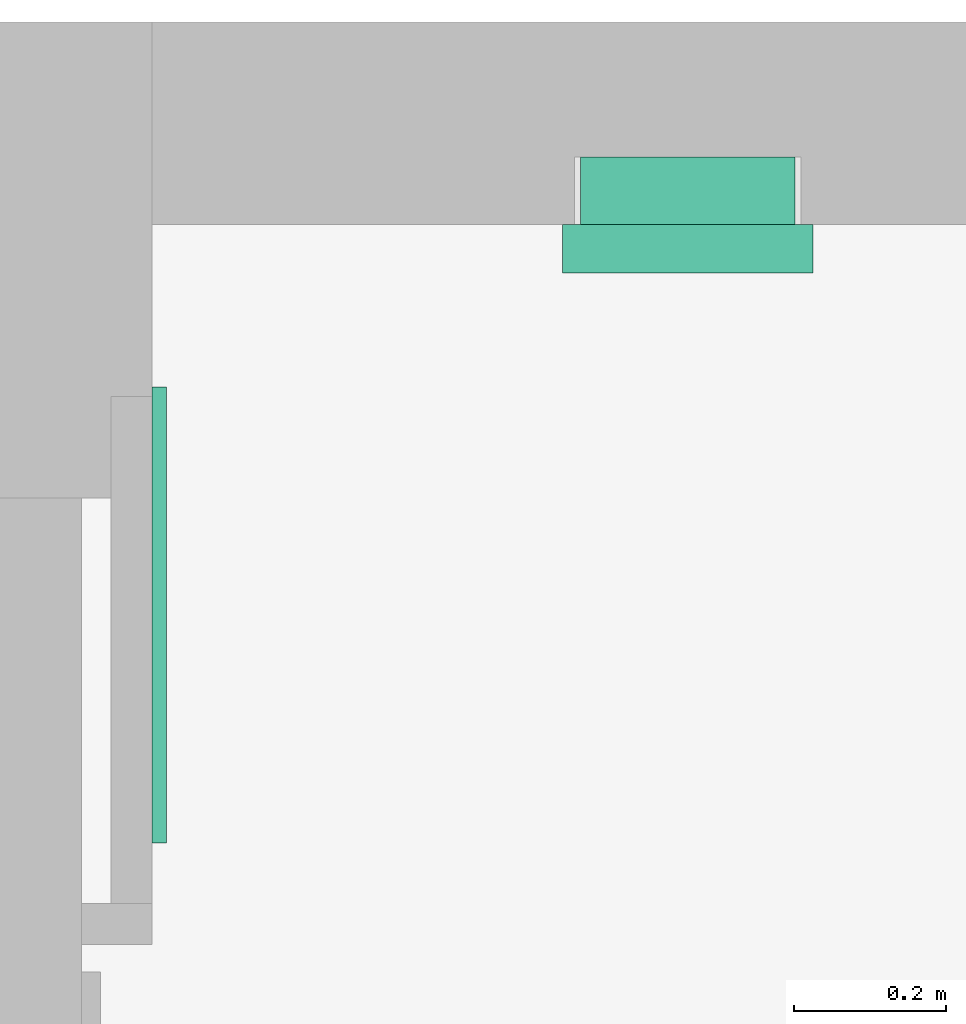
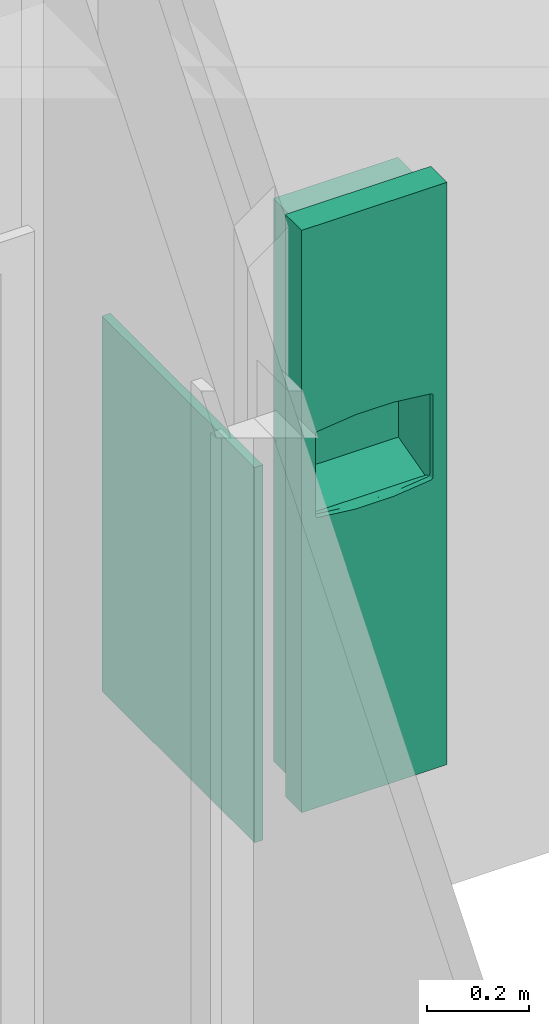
# One storey, part 66 of 87: 2 flow terminals.
"""IFC2X3 building model written with IfcOpenShell, lengths in metres."""

from ifc_helpers import new_model, entity, si_unit, converted_unit, frame, origin, origin_2d_with_axis, place, context, project, spatial, rectangle, extrude, face_set, surface_model, source, transform, mapped, type_object, type_shapes, element, save


model = new_model("IFC2X3")

# Units and contexts
model_context = context("Model", 3, precision=1e-09, world=origin())
plan_context = context("Plan", 3, precision=1e-09, world=origin())
ifc_project = project(units=[si_unit("LENGTHUNIT", "METRE"), si_unit("AREAUNIT", "SQUARE_METRE"), si_unit("VOLUMEUNIT", "CUBIC_METRE"), converted_unit("PLANEANGLEUNIT", "DEGREE", entity("IfcRatioMeasure", 0.01745329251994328), si_unit("PLANEANGLEUNIT", "RADIAN"), dimensions=[0, 0, 0, 0, 0, 0, 0]), si_unit("TIMEUNIT", "SECOND")], contexts=[model_context, plan_context])

# Site, building, storey, space
site_placement = place(None, origin())
site = spatial("IfcSite", under=ifc_project, at=site_placement, Name="Default", CompositionType="ELEMENT")
building_placement = place(site_placement, origin())
building = spatial("IfcBuilding", under=site, at=building_placement, CompositionType="ELEMENT")
storey_placement = place(building_placement, origin())
storey = spatial("IfcBuildingStorey", under=building, at=storey_placement, Name="First Floor", CompositionType="ELEMENT", Elevation=-3.531500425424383e-13)
space_placement = place(storey_placement, origin())
space = spatial("IfcSpace", under=storey, at=space_placement, Name="1A09", CompositionType="ELEMENT", InteriorOrExteriorSpace="INTERNAL")

# Flow terminals
sanitary_terminal_type_1 = type_object("IfcSanitaryTerminalType", Name="Mirror 600mm x 900mm", PredefinedType="NOTDEFINED")
shared_shape_1 = source(origin(), model_context, "Body", "SweptSolid", [
    extrude(rectangle(XDim=0.01904999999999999, YDim=0.5999999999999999, at=origin_2d_with_axis()), frame((0.02447030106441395, 0.036525, 1.0), z_axis=(0.0, 0.0, 1.0), x_axis=(0.0, -1.0, 0.0)), (0.0, 0.0, 1.0), 0.8999999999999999),
])
type_shapes(sanitary_terminal_type_1, [shared_shape_1])
flow_terminal_1_placement = place(space_placement, frame((-17.93000000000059, 49.71347030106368, -0.08500000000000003), z_axis=(0.0, 0.0, 1.0), x_axis=(0.0, -1.0, 0.0)))
element("IfcFlowTerminal", 1, at=flow_terminal_1_placement, inside=space, type_object=sanitary_terminal_type_1, Name="M_Mirror:Mirror 600mm x 900mm:Mirror 600mm x 900mm", ObjectType="Mirror 600mm x 900mm", context=model_context, shape_type="MappedRepresentation", body=[
    mapped(shared_shape_1, transform((0.0, 0.0, 0.0), scale=1.0)),
])
sanitary_terminal_type_2 = type_object("IfcSanitaryTerminalType", Name="Semi-Recessed", PredefinedType="NOTDEFINED")
shared_shape_2 = source(origin(), model_context, "Body", "SurfaceModel", [
    surface_model("IfcFaceBasedSurfaceModel", [(0.3047999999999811, 1.371600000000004, 0.006350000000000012), (0.02539999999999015, 1.371600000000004, 0.006350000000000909), (0.02539999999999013, 0.02540000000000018, 0.006350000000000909), (0.3047999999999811, 0.02540000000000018, 0.006350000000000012), (0.3047999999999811, 1.371600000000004, 0.0), (0.02539999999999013, 1.371600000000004, 0.0), (0.02539999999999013, 0.02540000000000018, 0.0), (0.3047999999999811, 0.02540000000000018, 0.0), (0.3047999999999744, 0.8683625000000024, 0.0314087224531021), (0.304799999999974, 0.8683625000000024, 0.0), (0.304799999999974, 1.371600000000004, 0.0), (0.3047999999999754, 1.371600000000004, 0.1396999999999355), (0.3047999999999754, 0.9274310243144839, 0.139699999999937), (0.3047999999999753, 0.9028355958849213, 0.1191121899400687), (0.304799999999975, 0.8840898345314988, 0.09308548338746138), (0.3047999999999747, 0.8723562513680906, 0.06323391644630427), (0.02539999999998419, 0.8683625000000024, 0.03140872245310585), (0.02539999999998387, 0.8683625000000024, 0.0), (0.02539999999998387, 1.371600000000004, 0.0), (0.02539999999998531, 1.371600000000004, 0.1396999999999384), (0.02539999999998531, 0.9274310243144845, 0.1396999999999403), (0.02539999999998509, 0.9028355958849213, 0.1191121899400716), (0.02539999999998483, 0.8840898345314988, 0.09308548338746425), (0.02539999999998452, 0.8723562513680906, 0.06323391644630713), (0.1650999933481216, 0.8971245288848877, 0.1125374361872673), (0.244423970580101, 0.8850007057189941, 0.0947267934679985), (0.3048000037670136, 0.8934627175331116, 0.1060988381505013), (0.225727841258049, 0.8897196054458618, 0.1024402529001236), (0.1240624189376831, 0.8936511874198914, 0.1080563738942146), (0.1443802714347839, 0.89626145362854, 0.1114614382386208), (0.02539999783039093, 0.8934627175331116, 0.1060988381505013), (0.2975995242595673, 0.8728225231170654, 0.06500939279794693), (0.2961554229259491, 0.8724397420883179, 0.06352298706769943), (0.08576729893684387, 0.8849983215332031, 0.09472260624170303), (0.05923719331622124, 0.8781034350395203, 0.0805450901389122), (0.06810294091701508, 0.8800443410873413, 0.08500713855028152), (0.02539999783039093, 0.8811564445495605, 0.08562259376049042), (0.03954862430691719, 0.8766331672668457, 0.07681932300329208), (0.04958875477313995, 0.8769928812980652, 0.07776296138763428), (0.02539999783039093, 0.8782230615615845, 0.07815969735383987), (0.03264534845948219, 0.875198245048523, 0.07281118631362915), (0.02539999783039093, 0.8767563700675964, 0.0744282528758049), (0.02539999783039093, 0.87602299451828, 0.07256253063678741), (0.2946777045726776, 0.8762261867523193, 0.07572414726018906), (0.3048000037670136, 0.8767563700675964, 0.0744282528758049), (0.3048000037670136, 0.8774896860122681, 0.07629397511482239), (0.2906513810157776, 0.8717893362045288, 0.0609215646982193), (0.3048000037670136, 0.871357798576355, 0.05527761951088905), (0.3048000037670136, 0.8718570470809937, 0.05925576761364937), (0.02539999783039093, 0.874556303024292, 0.06883108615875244), (0.03170676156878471, 0.8735430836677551, 0.0675705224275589), (0.03171554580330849, 0.8739543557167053, 0.06892137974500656), (0.104461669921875, 0.889717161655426, 0.1024366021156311), (0.02539999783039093, 0.8752896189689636, 0.07069680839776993), (0.03172433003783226, 0.8743656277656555, 0.07027223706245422), (0.03218483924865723, 0.8747819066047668, 0.07154171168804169), (0.185808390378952, 0.8962624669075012, 0.1114626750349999), (0.3048000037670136, 0.8703593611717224, 0.04732131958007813), (0.2280749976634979, 0.8709259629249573, 0.05697767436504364), (0.2061262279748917, 0.8936530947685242, 0.1080589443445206), (0.3048000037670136, 0.8752896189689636, 0.07069680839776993), (0.297547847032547, 0.8752022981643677, 0.07282306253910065), (0.2980738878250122, 0.8745774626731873, 0.0708826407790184), (0.2985999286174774, 0.8739525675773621, 0.06894221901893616), (0.3048000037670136, 0.874556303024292, 0.06883108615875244), (0.2709419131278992, 0.8781068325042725, 0.08055329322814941), (0.3048000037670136, 0.8811564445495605, 0.08562259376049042), (0.2620970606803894, 0.8800443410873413, 0.08500713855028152), (0.2805894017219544, 0.8769944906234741, 0.07776710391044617), (0.3048000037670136, 0.8782230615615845, 0.07815969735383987), (0.03435983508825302, 0.8722586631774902, 0.06284872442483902), (0.02539999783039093, 0.872106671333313, 0.06124484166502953), (0.0367727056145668, 0.8719081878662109, 0.06142202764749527), (0.2906513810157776, 0.8766331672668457, 0.07681932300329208), (0.02539999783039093, 0.8718570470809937, 0.05925576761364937), (0.3048000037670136, 0.8738229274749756, 0.06696536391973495), (0.2980997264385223, 0.8733875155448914, 0.06697580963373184), (0.3048000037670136, 0.872106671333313, 0.06124484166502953), (0.2947112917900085, 0.8720570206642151, 0.06203658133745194), (0.02539999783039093, 0.8738229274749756, 0.06696536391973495), (0.3048000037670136, 0.873089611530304, 0.06509964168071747), (0.02539999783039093, 0.8774896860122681, 0.07629397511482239), (0.03438528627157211, 0.8759323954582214, 0.07491400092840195), (0.03677724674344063, 0.8764464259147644, 0.07632055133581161), (0.03261014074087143, 0.8728178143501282, 0.0649920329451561), (0.02539999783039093, 0.8703593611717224, 0.04732131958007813), (0.1650999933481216, 0.8683624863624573, 0.03140872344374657), (0.03954862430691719, 0.8717893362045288, 0.0609215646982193), (0.1021250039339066, 0.8709259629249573, 0.05697767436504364), (0.02539999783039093, 0.871357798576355, 0.05527761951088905), (0.02539999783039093, 0.873089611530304, 0.06509964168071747), (0.2961127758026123, 0.8757142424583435, 0.07427360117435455), (0.3048000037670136, 0.87602299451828, 0.07256253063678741), (0.1650999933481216, 0.8701865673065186, 0.05300865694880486), (0.03954862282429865, 0.9617593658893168, 0.06092156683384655), (0.1650999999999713, 0.9617593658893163, 0.05300865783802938), (0.2906513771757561, 0.9617593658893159, 0.06092156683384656), (0.2927086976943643, 0.9617593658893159, 0.06119241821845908), (0.2946258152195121, 0.9617593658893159, 0.06198651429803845), (0.2962720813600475, 0.9617593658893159, 0.06324973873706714), (0.2975353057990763, 0.9617593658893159, 0.06489600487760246), (0.2983294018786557, 0.9617593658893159, 0.06681312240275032), (0.2986002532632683, 0.9617593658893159, 0.06887044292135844), (0.2983294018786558, 0.9617593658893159, 0.07092776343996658), (0.2975353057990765, 0.9617593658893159, 0.0728448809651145), (0.2962720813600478, 0.9617593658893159, 0.07449114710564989), (0.2946258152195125, 0.9617593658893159, 0.07575437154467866), (0.2927086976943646, 0.9617593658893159, 0.07654846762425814), (0.2906513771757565, 0.9617593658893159, 0.07681931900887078), (0.2806776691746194, 0.9617593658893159, 0.07775040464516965), (0.2710486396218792, 0.9617593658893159, 0.0805114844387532), (0.2620970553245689, 0.9617593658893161, 0.0850071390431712), (0.2316919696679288, 0.9617593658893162, 0.1002429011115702), (0.1989754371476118, 0.9617593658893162, 0.1095287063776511), (0.1651000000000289, 0.9617593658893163, 0.1125374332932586), (0.1312245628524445, 0.9617593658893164, 0.109528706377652), (0.09850803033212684, 0.9617593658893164, 0.1002429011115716), (0.06810294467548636, 0.9617593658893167, 0.08500713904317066), (0.05915136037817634, 0.9617593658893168, 0.08051148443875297), (0.04952233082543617, 0.9617593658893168, 0.07775040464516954), (0.03954862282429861, 0.9617593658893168, 0.07681931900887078), (0.03749130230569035, 0.9617593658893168, 0.0765484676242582), (0.03557418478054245, 0.9617593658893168, 0.07575437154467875), (0.03392791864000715, 0.9617593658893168, 0.07449114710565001), (0.03266469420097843, 0.9617593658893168, 0.07284488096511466), (0.03187059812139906, 0.9617593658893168, 0.07092776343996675), (0.03159974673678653, 0.9617593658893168, 0.06887044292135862), (0.03187059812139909, 0.9617593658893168, 0.06681312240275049), (0.03266469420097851, 0.9617593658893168, 0.0648960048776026), (0.03392791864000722, 0.9617593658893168, 0.06324973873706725), (0.03557418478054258, 0.9617593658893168, 0.06198651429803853), (0.03749130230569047, 0.9617593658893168, 0.06119241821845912), (0.3302000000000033, 1.397000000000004, 0.1523999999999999), (0.0, 1.397000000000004, 0.152400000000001), (0.0, 0.0, 0.152400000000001), (0.3302000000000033, 0.0, 0.1523999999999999), (0.03175000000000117, 0.7016793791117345, 0.1524000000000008), (0.03175000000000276, 0.8960819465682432, 0.1524000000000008), (0.03192255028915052, 0.8975521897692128, 0.1524000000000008), (0.03243082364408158, 0.8989425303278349, 0.1524000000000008), (0.03324719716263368, 0.9001774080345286, 0.1524000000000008), (0.03432730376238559, 0.9011897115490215, 0.1524000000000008), (0.03561244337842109, 0.9019244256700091, 0.1524000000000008), (0.03703277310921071, 0.9023416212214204, 0.1524000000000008), (0.1222300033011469, 0.9119737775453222, 0.1524000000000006), (0.2079699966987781, 0.911973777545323, 0.1524000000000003), (0.2931672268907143, 0.902341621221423, 0.1524), (0.2945875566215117, 0.9019244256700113, 0.1524), (0.2958726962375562, 0.9011897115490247, 0.1524), (0.2969528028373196, 0.9001774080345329, 0.1524), (0.297769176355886, 0.8989425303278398, 0.1524), (0.2982774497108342, 0.8975521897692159, 0.1524), (0.2984500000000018, 0.8960819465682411, 0.1524), (0.2984500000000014, 0.7016793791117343, 0.1524), (0.2982774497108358, 0.7002091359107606, 0.1524), (0.2977691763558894, 0.6988187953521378, 0.1524), (0.2969528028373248, 0.697583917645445, 0.1524), (0.2958726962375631, 0.6965716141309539, 0.1524), (0.29458755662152, 0.6958369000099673, 0.1524), (0.2931672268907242, 0.6954197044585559, 0.1524), (0.2079699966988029, 0.6857875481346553, 0.1524000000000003), (0.1222300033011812, 0.6857875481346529, 0.1524000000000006), (0.03703277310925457, 0.6954197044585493, 0.1524000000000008), (0.03561244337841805, 0.6958369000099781, 0.1524000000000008), (0.0343273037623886, 0.6965716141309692, 0.1524000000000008), (0.03324719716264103, 0.6975839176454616, 0.1524000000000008), (0.03243082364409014, 0.698818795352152, 0.1524000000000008), (0.03192255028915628, 0.7002091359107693, 0.1524000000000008), (0.3063874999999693, 1.373187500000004, 0.0), (0.02381249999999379, 1.373187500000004, 0.0), (0.02381249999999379, 0.02381250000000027, 0.0), (0.3063874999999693, 0.02381250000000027, 0.0), (0.3047999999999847, 1.371600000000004, 0.0), (0.3047999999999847, 0.02540000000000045, 0.0), (0.02539999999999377, 0.02540000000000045, 0.0), (0.02539999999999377, 1.371600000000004, 0.0), (0.304799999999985, 1.371600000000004, 0.08889999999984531), (0.3047999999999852, 1.371600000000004, 0.1396999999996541), (0.3047999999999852, 0.02540000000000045, 0.1396999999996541), (0.304799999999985, 0.02540000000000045, 0.08889999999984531), (0.02539999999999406, 0.02540000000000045, 0.08889999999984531), (0.02539999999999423, 0.02540000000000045, 0.139699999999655), (0.02539999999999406, 1.371600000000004, 0.08889999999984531), (0.02539999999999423, 1.371600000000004, 0.139699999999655), (0.02381249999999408, 1.373187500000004, 0.08889999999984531), (0.3063874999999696, 1.373187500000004, 0.08889999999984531), (0.02381249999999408, 0.02381250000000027, 0.08889999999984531), (0.3063874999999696, 0.02381250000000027, 0.08889999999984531), (0.3302000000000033, 1.397000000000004, 0.08889999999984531), (0.0, 1.397000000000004, 0.08889999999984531), (0.0, 0.0, 0.08889999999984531), (0.3302000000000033, 0.0, 0.08889999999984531), (0.3302000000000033, 1.397000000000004, 0.1396999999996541), (0.0, 1.397000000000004, 0.1396999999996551), (0.0, 0.0, 0.1396999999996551), (0.3302000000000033, 0.0, 0.1396999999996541), (0.0317500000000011, 0.7016793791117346, 0.139699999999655), (0.03175000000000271, 0.8960819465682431, 0.139699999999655), (0.03192255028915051, 0.8975521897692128, 0.139699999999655), (0.03243082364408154, 0.8989425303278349, 0.139699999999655), (0.03324719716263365, 0.9001774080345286, 0.139699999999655), (0.03432730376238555, 0.9011897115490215, 0.139699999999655), (0.03561244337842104, 0.9019244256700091, 0.139699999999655), (0.03703277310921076, 0.9023416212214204, 0.139699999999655), (0.1222300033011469, 0.9119737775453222, 0.1396999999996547), (0.207969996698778, 0.911973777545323, 0.1396999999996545), (0.2931672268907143, 0.902341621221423, 0.1396999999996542), (0.2945875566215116, 0.9019244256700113, 0.1396999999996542), (0.2958726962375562, 0.9011897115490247, 0.1396999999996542), (0.2969528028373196, 0.9001774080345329, 0.1396999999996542), (0.2977691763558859, 0.8989425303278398, 0.1396999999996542), (0.2982774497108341, 0.8975521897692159, 0.1396999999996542), (0.2984500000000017, 0.8960819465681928, 0.1396999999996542), (0.2984500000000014, 0.7016793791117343, 0.1396999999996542), (0.2982774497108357, 0.7002091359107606, 0.1396999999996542), (0.2977691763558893, 0.6988187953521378, 0.1396999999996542), (0.2969528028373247, 0.697583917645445, 0.1396999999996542), (0.295872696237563, 0.6965716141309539, 0.1396999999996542), (0.29458755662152, 0.6958369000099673, 0.1396999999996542), (0.2931672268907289, 0.6954197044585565, 0.1396999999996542), (0.2079699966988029, 0.6857875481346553, 0.1396999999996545), (0.1222300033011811, 0.6857875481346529, 0.1396999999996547), (0.0370327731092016, 0.6954197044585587, 0.139699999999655), (0.03561244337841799, 0.6958369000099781, 0.139699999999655), (0.03432730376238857, 0.6965716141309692, 0.139699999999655), (0.03324719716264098, 0.6975839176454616, 0.139699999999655), (0.03243082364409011, 0.698818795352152, 0.139699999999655), (0.03192255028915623, 0.7002091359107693, 0.139699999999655), (0.02698749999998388, 0.6774923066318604, 0.1206361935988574), (0.02698749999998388, 0.6858000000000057, 0.1206361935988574), (0.02698749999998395, 0.6858000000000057, 0.1397000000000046), (0.02698749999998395, 0.0253999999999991, 0.1397000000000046), (0.02698749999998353, 0.0253999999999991, 0.007937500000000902), (0.02698749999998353, 0.7076898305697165, 0.007937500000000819), (0.3032124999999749, 0.6774923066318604, 0.1206361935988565), (0.3032124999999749, 0.6858000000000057, 0.1206361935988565), (0.3032124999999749, 0.6858000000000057, 0.1397000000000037), (0.3032124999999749, 0.0253999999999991, 0.1397000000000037), (0.3032124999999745, 0.0253999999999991, 0.007937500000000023), (0.3032124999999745, 0.7076898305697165, 0.007937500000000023)], [face_set([[[0, 1, 2, 3]], [[4, 5, 6, 7]], [[1, 0, 4, 5]], [[2, 6, 5, 1]], [[3, 7, 6, 2]], [[0, 3, 7, 4]]]), face_set([[[8, 9, 10, 11, 12, 13, 14, 15]], [[16, 17, 18, 19, 20, 21, 22, 23]], [[9, 8, 16, 17]], [[10, 18, 17, 9]], [[11, 19, 18, 10]], [[12, 11, 19, 20]], [[24, 20, 21]], [[25, 26, 27]], [[28, 29, 21]], [[28, 21, 30]], [[15, 31, 32]], [[22, 33, 30]], [[24, 21, 29]], [[34, 35, 36]], [[37, 38, 39]], [[40, 41, 42]], [[39, 38, 34]], [[22, 35, 33]], [[39, 34, 36]], [[43, 44, 45]], [[46, 47, 48]], [[49, 50, 51]], [[33, 52, 30]], [[53, 54, 55]], [[24, 56, 13]], [[57, 47, 58]], [[24, 13, 12]], [[13, 56, 59]], [[59, 27, 26]], [[60, 61, 62]], [[62, 63, 64]], [[24, 12, 20]], [[55, 42, 53]], [[65, 66, 67]], [[25, 67, 14]], [[25, 14, 26]], [[65, 68, 69]], [[66, 65, 69]], [[70, 71, 72]], [[69, 68, 73]], [[72, 71, 74]], [[26, 13, 59]], [[54, 53, 49]], [[64, 60, 62]], [[75, 63, 76]], [[46, 77, 78]], [[79, 50, 49]], [[80, 76, 31]], [[39, 81, 37]], [[41, 82, 81]], [[49, 51, 54]], [[81, 82, 83]], [[40, 82, 41]], [[70, 84, 23]], [[84, 50, 79]], [[85, 16, 86]], [[28, 30, 52]], [[70, 23, 71]], [[87, 72, 74]], [[85, 88, 89]], [[87, 89, 88]], [[74, 89, 87]], [[84, 90, 23]], [[58, 47, 46]], [[35, 22, 36]], [[63, 75, 64]], [[91, 61, 92]], [[45, 73, 43]], [[80, 75, 76]], [[61, 60, 92]], [[15, 32, 78]], [[45, 69, 73]], [[92, 44, 91]], [[66, 14, 67]], [[84, 79, 90]], [[85, 93, 88]], [[86, 57, 93]], [[31, 15, 80]], [[77, 15, 78]], [[42, 55, 40]], [[58, 93, 57]], [[77, 46, 48]], [[8, 57, 86]], [[37, 81, 83]], [[44, 43, 91]], [[85, 86, 93]], [[94, 95, 96, 97, 98, 99, 100, 101, 102, 103, 104, 105, 106, 107, 108, 109, 110, 111, 112, 113, 114, 115, 116, 117, 118, 119, 120, 121, 122, 123, 124, 125, 126, 127, 128, 129, 130, 131]], [[95, 94, 87, 88, 93]], [[96, 95, 93, 58, 46]], [[46, 96, 97]], [[78, 98, 99]], [[97, 98, 78]], [[99, 100, 31]], [[46, 97, 78]], [[63, 31, 101]], [[31, 78, 99]], [[63, 101, 102]], [[101, 31, 100]], [[61, 104, 105]], [[43, 106, 107]], [[105, 106, 43]], [[73, 107, 108]], [[63, 103, 61]], [[103, 63, 102]], [[61, 103, 104]], [[61, 105, 43]], [[107, 73, 43]], [[108, 68, 73]], [[68, 108, 109]], [[109, 65, 68]], [[110, 67, 65]], [[67, 110, 111]], [[109, 110, 65]], [[111, 112, 25]], [[25, 67, 111]], [[27, 25, 112]], [[112, 59, 27]], [[113, 114, 56]], [[56, 59, 113]], [[24, 56, 114]], [[113, 59, 112]], [[114, 115, 29]], [[29, 24, 114]], [[28, 29, 115]], [[115, 116, 28]], [[116, 117, 33]], [[33, 52, 116]], [[35, 33, 117]], [[116, 52, 28]], [[118, 34, 35]], [[35, 117, 118]], [[118, 119, 34]], [[120, 37, 38]], [[38, 119, 120]], [[34, 119, 38]], [[37, 120, 121]], [[82, 122, 123]], [[121, 122, 83]], [[123, 124, 40]], [[37, 121, 83]], [[83, 122, 82]], [[40, 125, 54]], [[40, 82, 123]], [[54, 125, 126]], [[40, 124, 125]], [[84, 127, 128]], [[129, 84, 128]], [[72, 130, 131]], [[129, 130, 70]], [[87, 131, 94]], [[127, 50, 126]], [[127, 84, 50]], [[126, 50, 54]], [[70, 84, 129]], [[130, 72, 70]], [[131, 87, 72]]]), face_set([[[132, 133, 134, 135], [136, 137, 138, 139, 140, 141, 142, 143, 144, 145, 146, 147, 148, 149, 150, 151, 152, 153, 154, 155, 156, 157, 158, 159, 160, 161, 162, 163, 164, 165, 166, 167]], [[168, 169, 170, 171], [172, 173, 174, 175]], [[172, 176, 177, 178, 179, 173]], [[173, 174, 180, 181, 178, 179]], [[174, 175, 182, 183, 181, 180]], [[175, 182, 183, 177, 176, 172]], [[168, 169, 184, 185]], [[169, 184, 186, 170]], [[170, 186, 187, 171]], [[171, 168, 185, 187]], [[188, 189, 190, 191], [185, 187, 186, 184]], [[133, 132, 192, 188, 189, 193]], [[134, 133, 193, 189, 190, 194]], [[135, 134, 194, 190, 191, 195]], [[132, 135, 195, 191, 188, 192]], [[177, 183, 181, 178], [196, 197, 198, 199, 200, 201, 202, 203, 204, 205, 206, 207, 208, 209, 210, 211, 212, 213, 214, 215, 216, 217, 218, 219, 220, 221, 222, 223, 224, 225, 226, 227]], [[137, 136, 196, 197]], [[198, 197, 137, 138]], [[199, 198, 138, 139]], [[139, 140, 200, 199]], [[202, 201, 141, 142]], [[203, 202, 142, 143]], [[140, 141, 201, 200]], [[203, 143, 144, 204]], [[145, 205, 204, 144]], [[205, 145, 146, 206]], [[207, 206, 146, 147]], [[208, 207, 147, 148]], [[148, 149, 209, 208]], [[212, 211, 151, 152]], [[211, 210, 150, 151]], [[149, 150, 210, 209]], [[153, 213, 212, 152]], [[214, 213, 153, 154]], [[215, 214, 154, 155]], [[155, 156, 216, 215]], [[218, 217, 157, 158]], [[219, 218, 158, 159]], [[156, 157, 217, 216]], [[219, 159, 160, 220]], [[161, 221, 220, 160]], [[221, 161, 162, 222]], [[223, 222, 162, 163]], [[224, 223, 163, 164]], [[164, 165, 225, 224]], [[227, 226, 166, 167]], [[196, 227, 167, 136]], [[165, 166, 226, 225]]]), face_set([[[228, 229, 230, 231, 232, 233]], [[234, 235, 236, 237, 238, 239]], [[233, 228, 234, 239]], [[232, 238, 239, 233]], [[231, 237, 238, 232]], [[230, 231, 237, 236]], [[229, 230, 236, 235]], [[228, 234, 235, 229]]])]),
])
type_shapes(sanitary_terminal_type_2, [shared_shape_2])
flow_terminal_2_placement = place(space_placement, frame((-17.36300000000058, 50.2918999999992, 0.3428999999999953), z_axis=(0.0, -1.0, 0.0), x_axis=(1.0, 0.0, 0.0)))
element("IfcFlowTerminal", 2, at=flow_terminal_2_placement, inside=space, type_object=sanitary_terminal_type_2, Name="M_Towel Dispensers - receptical:Semi-Recessed:Semi-Recessed", ObjectType="Semi-Recessed", context=model_context, shape_type="MappedRepresentation", body=[
    mapped(shared_shape_2, transform((0.0, 0.0, 0.0), scale=1.0)),
])

save(model, "model.ifc")
